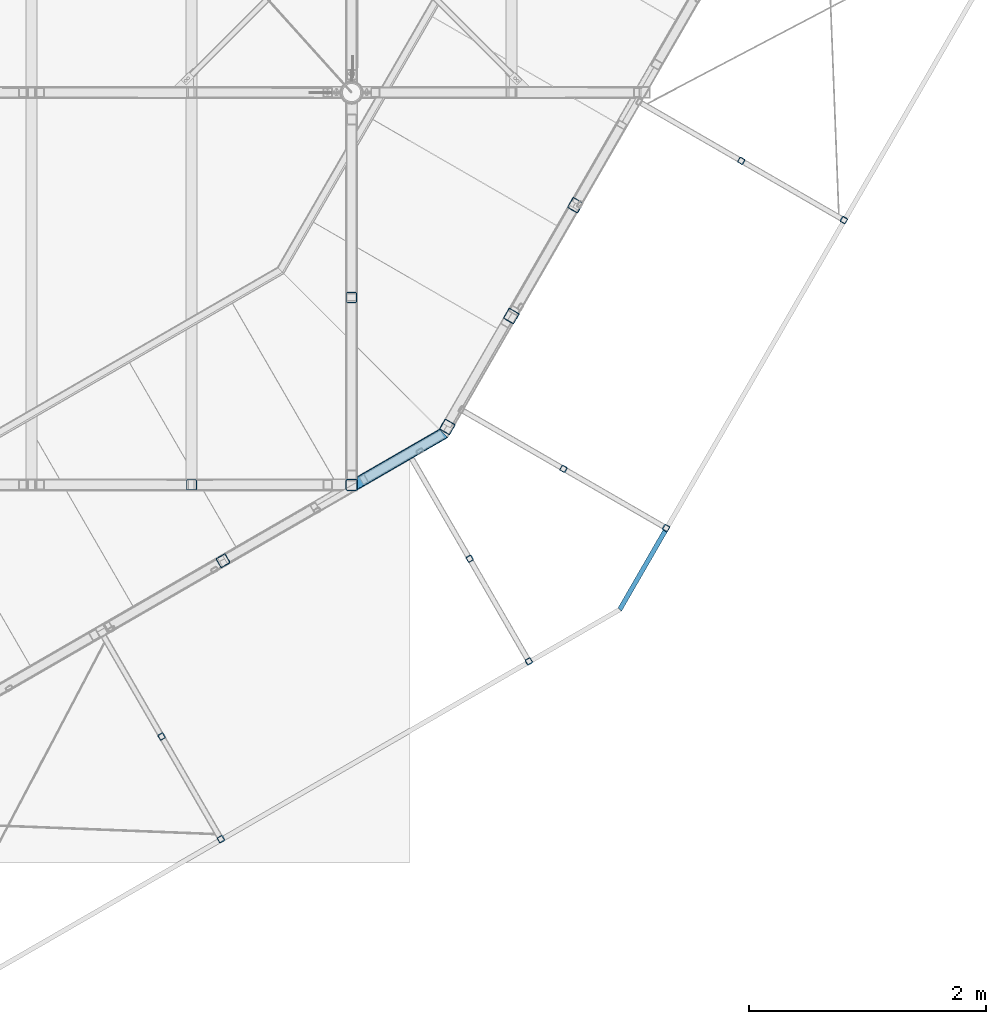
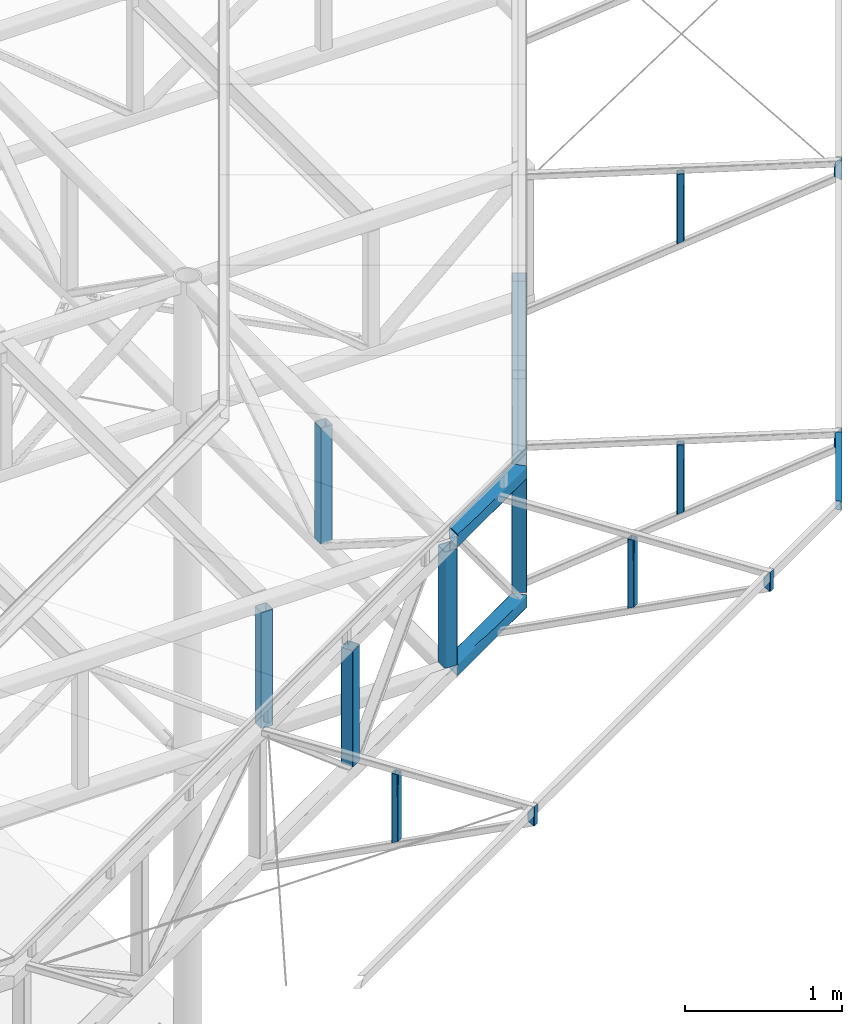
# One storey, part 79 of 132: 18 discrete accessories, 9 elements without a shape of their own.
"""IFC2X3 building model written with IfcOpenShell, lengths in millimetres."""

from ifc_helpers import new_model, si_unit, frame, origin_with_axes, origin_2d_with_axis, place, context, subcontext, project, spatial, hollow_rectangle, u_section, extrude, clip, halfspace, material, type_object, element, aggregate, save


model = new_model("IFC2X3")

# Units and contexts
model_context = context("Model", 3, precision=1e-05, world=origin_with_axes())
body_context = subcontext(model_context, "Body", "Model", "MODEL_VIEW")
ifc_project = project(units=[si_unit("LENGTHUNIT", "METRE", prefix="MILLI"), si_unit("AREAUNIT", "SQUARE_METRE"), si_unit("VOLUMEUNIT", "CUBIC_METRE"), si_unit("MASSUNIT", "GRAM", prefix="KILO"), si_unit("TIMEUNIT", "SECOND"), si_unit("PLANEANGLEUNIT", "RADIAN"), si_unit("SOLIDANGLEUNIT", "STERADIAN"), si_unit("THERMODYNAMICTEMPERATUREUNIT", "DEGREE_CELSIUS"), si_unit("LUMINOUSINTENSITYUNIT", "LUMEN")], contexts=[model_context])

# Site, building, storey
site_placement = place(None, origin_with_axes())
site = spatial("IfcSite", under=ifc_project, at=site_placement, Name="Budowa", CompositionType="ELEMENT")
building_placement = place(site_placement, origin_with_axes())
building = spatial("IfcBuilding", under=site, at=building_placement, Name="Undefined", CompositionType="ELEMENT")
storey_placement = place(building_placement, origin_with_axes())
storey = spatial("IfcBuildingStorey", under=building, at=storey_placement, Name="Undefined", CompositionType="ELEMENT", Elevation=0.0)

# Assembly, discrete accessory
assembly_1_placement = place(storey_placement, origin_with_axes())
assembly_1 = element("IfcElementAssembly", 1, at=assembly_1_placement, inside=storey, Name="Steel Assembly", AssemblyPlace="NOTDEFINED", PredefinedType="RIGID_FRAME")
ifc_material = material(Name="STEEL/S235")
discrete_accessory_type = type_object("IfcDiscreteAccessoryType", Name="BEAM")
discrete_accessory_1_placement = place(assembly_1_placement, frame((22395.4981797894, 1478.75715309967, 13945.0030433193), z_axis=(-4.93841132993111e-07, -8.55724813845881e-07, -0.999999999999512), x_axis=(0.499969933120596, 0.866042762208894, -9.88000000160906e-07)))
discrete_accessory_1 = element("IfcDiscreteAccessory", 2, at=discrete_accessory_1_placement, type_object=discrete_accessory_type, material=ifc_material, Name="BEAM", ObjectType="C70*40*4", context=body_context, shape_type="Clipping", body=[
    clip(extrude(u_section(Depth=70.0, FlangeWidth=40.0, WebThickness=4.0, FlangeThickness=4.0, FilletRadius=6.0, at=origin_2d_with_axis()), frame((950.000000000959, 1.82248795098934e-14, 0.0), z_axis=(-1.0, 0.0, 0.0), x_axis=(0.0, -1.0, 0.0)), (0.0, 0.0, 1.0), 804.12), halfspace(frame((188.937335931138, -20.000059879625, 3.42169423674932e-05), z_axis=(-0.965916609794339, -0.258853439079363, 4.43050502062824e-07), x_axis=(-1.71128704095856e-10, -1.71094966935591e-06, -0.999999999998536)), False)),
])
aggregate(assembly_1, [discrete_accessory_1])

# Assembly, discrete accessories
assembly_2_placement = place(storey_placement, origin_with_axes())
assembly_2 = element("IfcElementAssembly", 3, at=assembly_2_placement, inside=storey, Name="Steel Assembly", AssemblyPlace="NOTDEFINED", PredefinedType="RIGID_FRAME")
discrete_accessory_2_placement = place(assembly_2_placement, frame((23512.5560294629, 5423.71783379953, 13878.94002838), z_axis=(-0.499969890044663, -0.866042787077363, 0.0), x_axis=(0.0, 0.0, -1.0)))
discrete_accessory_2 = element("IfcDiscreteAccessory", 4, at=discrete_accessory_2_placement, type_object=discrete_accessory_type, material=ifc_material, Name="BEAM", ObjectType="SHS50*4", context=body_context, shape_type="Clipping", body=[
    clip(clip(extrude(hollow_rectangle(XDim=50.0, YDim=50.0, WallThickness=4.0, InnerFilletRadius=4.0, OuterFilletRadius=8.0, at=origin_2d_with_axis()), frame((545.085010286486, 0.0, 0.0), z_axis=(-1.0, 0.0, 0.0), x_axis=(0.0, -1.0, 0.0)), (0.0, 0.0, 1.0), 559.36), halfspace(frame((536.667324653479, -11.620388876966, 1000.0), z_axis=(-0.885407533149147, -0.464815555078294, 0.0), x_axis=(0.464815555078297, -0.885407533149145, 0.0)), True)), halfspace(frame((0.185048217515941, 1.24844042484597, 1000.0), z_axis=(0.998752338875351, 0.0499376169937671, 0.0), x_axis=(-0.0499376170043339, 0.998752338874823, 2.09020387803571e-11)), True)),
])
discrete_accessory_3_placement = place(assembly_2_placement, frame((24378.5988165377, 4923.7479437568, 13979.9998397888), z_axis=(-0.499969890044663, -0.866042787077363, 0.0), x_axis=(0.0, 0.0, -1.0)))
discrete_accessory_3 = element("IfcDiscreteAccessory", 5, at=discrete_accessory_3_placement, type_object=discrete_accessory_type, material=ifc_material, Name="BEAM", ObjectType="SHS50*4", context=body_context, shape_type="Clipping", body=[
    clip(clip(extrude(hollow_rectangle(XDim=50.0, YDim=50.0, WallThickness=4.0, InnerFilletRadius=4.0, OuterFilletRadius=8.0, at=origin_2d_with_axis()), frame((176.695154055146, 0.0, 0.0), z_axis=(-1.0, 0.0, 0.0), x_axis=(0.0, -1.0, 0.0)), (0.0, 0.0, 1.0), 192.23), halfspace(frame((149.999998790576, 25.0, 0.0), z_axis=(0.855808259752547, -0.517293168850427, 0.0), x_axis=(0.0, 0.0, -1.0)), False)), halfspace(frame((-0.00517939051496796, 25.0, 0.0), z_axis=(-0.689225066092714, -0.724547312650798, 2.88487317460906e-10), x_axis=(0.0, 0.0, 1.0)), False)),
])
aggregate(assembly_2, [discrete_accessory_2, discrete_accessory_3])

assembly_3_placement = place(storey_placement, origin_with_axes())
assembly_3 = element("IfcElementAssembly", 6, at=assembly_3_placement, inside=storey, Name="Steel Assembly", AssemblyPlace="NOTDEFINED", PredefinedType="RIGID_FRAME")
discrete_accessory_4_placement = place(assembly_3_placement, frame((22012.5957528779, 2825.61868852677, 13878.94002838), z_axis=(-0.499969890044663, -0.866042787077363, 0.0), x_axis=(0.0, 0.0, -1.0)))
discrete_accessory_4 = element("IfcDiscreteAccessory", 7, at=discrete_accessory_4_placement, type_object=discrete_accessory_type, material=ifc_material, Name="BEAM", ObjectType="SHS50*4", context=body_context, shape_type="Clipping", body=[
    clip(clip(extrude(hollow_rectangle(XDim=50.0, YDim=50.0, WallThickness=4.0, InnerFilletRadius=4.0, OuterFilletRadius=8.0, at=origin_2d_with_axis()), frame((545.085010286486, 0.0, 0.0), z_axis=(-1.0, 0.0, 0.0), x_axis=(0.0, -1.0, 0.0)), (0.0, 0.0, 1.0), 559.36), halfspace(frame((536.667324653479, -11.620388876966, 1000.0), z_axis=(-0.885407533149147, -0.464815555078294, 0.0), x_axis=(0.464815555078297, -0.885407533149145, 0.0)), True)), halfspace(frame((0.185048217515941, 1.24844042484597, 1000.0), z_axis=(0.998752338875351, 0.0499376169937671, 0.0), x_axis=(-0.0499376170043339, 0.998752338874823, 2.09020387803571e-11)), True)),
])
discrete_accessory_5_placement = place(assembly_3_placement, frame((22878.6385399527, 2325.64879848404, 13979.9998397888), z_axis=(-0.499969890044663, -0.866042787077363, 0.0), x_axis=(0.0, 0.0, -1.0)))
discrete_accessory_5 = element("IfcDiscreteAccessory", 8, at=discrete_accessory_5_placement, type_object=discrete_accessory_type, material=ifc_material, Name="BEAM", ObjectType="SHS50*4", context=body_context, shape_type="Clipping", body=[
    clip(clip(extrude(hollow_rectangle(XDim=50.0, YDim=50.0, WallThickness=4.0, InnerFilletRadius=4.0, OuterFilletRadius=8.0, at=origin_2d_with_axis()), frame((176.695154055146, 0.0, 0.0), z_axis=(-1.0, 0.0, 0.0), x_axis=(0.0, -1.0, 0.0)), (0.0, 0.0, 1.0), 192.23), halfspace(frame((149.999998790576, 25.0, 0.0), z_axis=(0.855808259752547, -0.517293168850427, 0.0), x_axis=(0.0, 0.0, -1.0)), False)), halfspace(frame((-0.00517939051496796, 25.0, 0.0), z_axis=(-0.689225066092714, -0.724547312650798, 2.88487317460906e-10), x_axis=(0.0, 0.0, 1.0)), False)),
])
aggregate(assembly_3, [discrete_accessory_4, discrete_accessory_5])

assembly_4_placement = place(storey_placement, origin_with_axes())
assembly_4 = element("IfcElementAssembly", 9, at=assembly_4_placement, inside=storey, Name="Steel Assembly", AssemblyPlace="NOTDEFINED", PredefinedType="RIGID_FRAME")
discrete_accessory_6_placement = place(assembly_4_placement, frame((21220.4479907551, 2066.84601771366, 13878.94002838), z_axis=(0.866042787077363, 0.499969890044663, 0.0), x_axis=(0.0, 0.0, -1.0)))
discrete_accessory_6 = element("IfcDiscreteAccessory", 10, at=discrete_accessory_6_placement, type_object=discrete_accessory_type, material=ifc_material, Name="BEAM", ObjectType="SHS50*4", context=body_context, shape_type="Clipping", body=[
    clip(clip(extrude(hollow_rectangle(XDim=50.0, YDim=50.0, WallThickness=4.0, InnerFilletRadius=4.0, OuterFilletRadius=8.0, at=origin_2d_with_axis()), frame((545.085010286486, 0.0, 0.0), z_axis=(-1.0, 0.0, 0.0), x_axis=(0.0, -1.0, 0.0)), (0.0, 0.0, 1.0), 559.36), halfspace(frame((536.667324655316, 11.6203888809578, 999.999999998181), z_axis=(-0.885407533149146, 0.464815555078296, 0.0), x_axis=(-0.464815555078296, -0.885407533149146, 0.0)), True)), halfspace(frame((0.185048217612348, -1.24844042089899, 999.999999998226), z_axis=(0.998752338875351, -0.0499376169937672, 0.0), x_axis=(0.0499376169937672, 0.998752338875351, 0.0)), True)),
])
discrete_accessory_7_placement = place(assembly_4_placement, frame((21720.4178808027, 1200.80323063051, 13979.9998397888), z_axis=(0.866042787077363, 0.499969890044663, 0.0), x_axis=(0.0, 0.0, -1.0)))
discrete_accessory_7 = element("IfcDiscreteAccessory", 11, at=discrete_accessory_7_placement, type_object=discrete_accessory_type, material=ifc_material, Name="BEAM", ObjectType="SHS50*4", context=body_context, shape_type="Clipping", body=[
    clip(clip(extrude(hollow_rectangle(XDim=50.0, YDim=50.0, WallThickness=4.0, InnerFilletRadius=4.0, OuterFilletRadius=8.0, at=origin_2d_with_axis()), frame((176.695154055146, 0.0, 0.0), z_axis=(-1.0, 0.0, 0.0), x_axis=(0.0, -1.0, 0.0)), (0.0, 0.0, 1.0), 192.23), halfspace(frame((149.999998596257, -25.0000000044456, 4.06544131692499e-09), z_axis=(0.855808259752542, 0.517293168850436, 0.0), x_axis=(0.0, 0.0, 1.0)), False)), halfspace(frame((-0.00517941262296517, -25.0000000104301, 1.04982973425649e-08), z_axis=(-0.689225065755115, 0.724547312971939, 0.0), x_axis=(0.0, 0.0, -1.0)), False)),
])
aggregate(assembly_4, [discrete_accessory_6, discrete_accessory_7])

assembly_5_placement = place(storey_placement, origin_with_axes())
assembly_5 = element("IfcElementAssembly", 12, at=assembly_5_placement, inside=storey, Name="Steel Assembly", AssemblyPlace="NOTDEFINED", PredefinedType="RIGID_FRAME")
discrete_accessory_8_placement = place(assembly_5_placement, frame((18622.3196295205, 566.9363475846, 13878.94002838), z_axis=(0.866042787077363, 0.499969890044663, 0.0), x_axis=(0.0, 0.0, -1.0)))
discrete_accessory_8 = element("IfcDiscreteAccessory", 13, at=discrete_accessory_8_placement, type_object=discrete_accessory_type, material=ifc_material, Name="BEAM", ObjectType="SHS50*4", context=body_context, shape_type="Clipping", body=[
    clip(clip(extrude(hollow_rectangle(XDim=50.0, YDim=50.0, WallThickness=4.0, InnerFilletRadius=4.0, OuterFilletRadius=8.0, at=origin_2d_with_axis()), frame((545.085010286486, 0.0, 0.0), z_axis=(-1.0, 0.0, 0.0), x_axis=(0.0, -1.0, 0.0)), (0.0, 0.0, 1.0), 559.36), halfspace(frame((536.667324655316, 11.6203888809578, 999.999999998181), z_axis=(-0.885407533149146, 0.464815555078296, 0.0), x_axis=(-0.464815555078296, -0.885407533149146, 0.0)), True)), halfspace(frame((0.185048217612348, -1.24844042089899, 999.999999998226), z_axis=(0.998752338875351, -0.0499376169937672, 0.0), x_axis=(0.0499376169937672, 0.998752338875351, 0.0)), True)),
])
discrete_accessory_9_placement = place(assembly_5_placement, frame((19122.2895195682, -299.10643949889, 13979.9998397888), z_axis=(0.866042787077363, 0.499969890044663, 0.0), x_axis=(0.0, 0.0, -1.0)))
discrete_accessory_9 = element("IfcDiscreteAccessory", 14, at=discrete_accessory_9_placement, type_object=discrete_accessory_type, material=ifc_material, Name="BEAM", ObjectType="SHS50*4", context=body_context, shape_type="Clipping", body=[
    clip(clip(extrude(hollow_rectangle(XDim=50.0, YDim=50.0, WallThickness=4.0, InnerFilletRadius=4.0, OuterFilletRadius=8.0, at=origin_2d_with_axis()), frame((176.695154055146, 0.0, 0.0), z_axis=(-1.0, 0.0, 0.0), x_axis=(0.0, -1.0, 0.0)), (0.0, 0.0, 1.0), 192.23), halfspace(frame((149.999998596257, -25.0000000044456, 4.06544131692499e-09), z_axis=(0.855808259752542, 0.517293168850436, 0.0), x_axis=(0.0, 0.0, 1.0)), False)), halfspace(frame((-0.00517941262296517, -25.0000000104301, 1.04982973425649e-08), z_axis=(-0.689225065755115, 0.724547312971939, 0.0), x_axis=(0.0, 0.0, -1.0)), False)),
])
aggregate(assembly_5, [discrete_accessory_8, discrete_accessory_9])

assembly_6_placement = place(storey_placement, origin_with_axes())
assembly_6 = element("IfcElementAssembly", 15, at=assembly_6_placement, inside=storey, Name="Steel Assembly", AssemblyPlace="NOTDEFINED", PredefinedType="RIGID_FRAME")
discrete_accessory_10_placement = place(assembly_6_placement, frame((22112.8166863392, 5049.60522629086, 12879.9999999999), z_axis=(0.0, 0.0, 1.0), x_axis=(0.866025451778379, -0.499999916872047, 0.0)))
discrete_accessory_10 = element("IfcDiscreteAccessory", 16, at=discrete_accessory_10_placement, type_object=discrete_accessory_type, material=ifc_material, Name="BEAM", ObjectType="SHS100*4", context=body_context, shape_type="Clipping", body=[
    clip(clip(extrude(hollow_rectangle(XDim=100.0, YDim=100.0, WallThickness=4.0, InnerFilletRadius=4.0, OuterFilletRadius=8.0, at=origin_2d_with_axis()), frame((0.0, 0.0, 900.0), z_axis=(0.0, 0.0, -1.0), x_axis=(0.0, 1.0, 0.0)), (0.0, 0.0, 1.0), 900.0), halfspace(frame((1000.0, 0.0, 900.0), z_axis=(0.0, 0.0, -1.0), x_axis=(0.0, 1.0, 0.0)), True)), halfspace(frame((1000.0, 0.0, 0.0), z_axis=(0.0, 0.0, 1.0), x_axis=(0.0, -1.0, 0.0)), True)),
])
discrete_accessory_11_placement = place(assembly_6_placement, frame((21572.8166315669, 4114.29782182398, 12879.9999999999), z_axis=(0.0, 0.0, 1.0), x_axis=(0.866025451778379, -0.499999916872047, 0.0)))
discrete_accessory_11 = element("IfcDiscreteAccessory", 17, at=discrete_accessory_11_placement, type_object=discrete_accessory_type, material=ifc_material, Name="BEAM", ObjectType="SHS100*4", context=body_context, shape_type="Clipping", body=[
    clip(clip(extrude(hollow_rectangle(XDim=100.0, YDim=100.0, WallThickness=4.0, InnerFilletRadius=4.0, OuterFilletRadius=8.0, at=origin_2d_with_axis()), frame((0.0, 0.0, 900.0), z_axis=(0.0, 0.0, -1.0), x_axis=(0.0, 1.0, 0.0)), (0.0, 0.0, 1.0), 900.0), halfspace(frame((1000.0, 0.0, 900.0), z_axis=(0.0, 0.0, -1.0), x_axis=(0.0, 1.0, 0.0)), True)), halfspace(frame((1000.0, 0.0, 0.0), z_axis=(0.0, 0.0, 1.0), x_axis=(0.0, -1.0, 0.0)), True)),
])
discrete_accessory_12_placement = place(assembly_6_placement, frame((21032.8165767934, 3178.99041735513, 12879.9999999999), z_axis=(0.0, 0.0, 1.0), x_axis=(0.866025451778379, -0.499999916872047, 0.0)))
discrete_accessory_12 = element("IfcDiscreteAccessory", 18, at=discrete_accessory_12_placement, type_object=discrete_accessory_type, material=ifc_material, Name="BEAM", ObjectType="SHS100*4", context=body_context, shape_type="Clipping", body=[
    clip(clip(extrude(hollow_rectangle(XDim=100.0, YDim=100.0, WallThickness=4.0, InnerFilletRadius=4.0, OuterFilletRadius=8.0, at=origin_2d_with_axis()), frame((0.0, 0.0, 900.0), z_axis=(0.0, 0.0, -1.0), x_axis=(0.0, 1.0, 0.0)), (0.0, 0.0, 1.0), 900.0), halfspace(frame((1000.0, 0.0, 900.0), z_axis=(0.0, 0.0, -1.0), x_axis=(0.0, 1.0, 0.0)), True)), halfspace(frame((1000.0, 0.0, 0.0), z_axis=(0.0, 0.0, 1.0), x_axis=(0.0, -1.0, 0.0)), True)),
])
discrete_accessory_13_placement = place(assembly_6_placement, frame((20246.9871952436, 2688.72349715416, 12830.0), z_axis=(0.0, 0.0, 1.0), x_axis=(0.866042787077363, 0.499969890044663, 0.0)))
discrete_accessory_13 = element("IfcDiscreteAccessory", 19, at=discrete_accessory_13_placement, type_object=discrete_accessory_type, material=ifc_material, Name="BEAM", ObjectType="SHS100*5", context=body_context, shape_type="Clipping", body=[
    clip(clip(extrude(hollow_rectangle(XDim=100.0, YDim=100.0, WallThickness=5.0, InnerFilletRadius=5.0, OuterFilletRadius=10.0, at=origin_2d_with_axis()), frame((950.430426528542, 0.0, 0.0), z_axis=(-1.0, 0.0, 0.0), x_axis=(0.0, -1.0, 0.0)), (0.0, 0.0, 1.0), 950.43), halfspace(frame((3.48055581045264, -49.9999999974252, -50.0), z_axis=(-0.866042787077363, 0.499969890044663, 0.0), x_axis=(0.499969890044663, 0.866042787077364, 0.0)), False)), halfspace(frame((884.175439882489, -50.0000000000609, 0.0), z_axis=(0.965921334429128, 0.258835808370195, 0.0), x_axis=(0.0, 0.0, 1.0)), False)),
])
discrete_accessory_14_placement = place(assembly_6_placement, frame((20246.9871952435, 2688.72349715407, 13830.0), z_axis=(0.0, 0.0, 1.0), x_axis=(0.866042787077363, 0.499969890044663, 0.0)))
discrete_accessory_14 = element("IfcDiscreteAccessory", 20, at=discrete_accessory_14_placement, type_object=discrete_accessory_type, material=ifc_material, Name="BEAM", ObjectType="SHS100*5", context=body_context, shape_type="Clipping", body=[
    clip(clip(extrude(hollow_rectangle(XDim=100.0, YDim=100.0, WallThickness=5.0, InnerFilletRadius=5.0, OuterFilletRadius=10.0, at=origin_2d_with_axis()), frame((950.430426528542, 0.0, 0.0), z_axis=(-1.0, 0.0, 0.0), x_axis=(0.0, -1.0, 0.0)), (0.0, 0.0, 1.0), 950.43), halfspace(frame((3.48055581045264, -49.9999999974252, -50.0), z_axis=(-0.866042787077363, 0.499969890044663, 0.0), x_axis=(0.499969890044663, 0.866042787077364, 0.0)), False)), halfspace(frame((884.175439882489, -50.0000000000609, 0.0), z_axis=(0.965921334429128, 0.258835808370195, 0.0), x_axis=(0.0, 0.0, 1.0)), False)),
])
aggregate(assembly_6, [discrete_accessory_10, discrete_accessory_11, discrete_accessory_12, discrete_accessory_13, discrete_accessory_14])

# Assembly, discrete accessory
assembly_7_placement = place(storey_placement, origin_with_axes())
assembly_7 = element("IfcElementAssembly", 21, at=assembly_7_placement, inside=storey, Name="Steel Assembly", AssemblyPlace="NOTDEFINED", PredefinedType="RIGID_FRAME")
discrete_accessory_15_placement = place(assembly_7_placement, frame((19140.3912211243, 2049.68130816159, 12880.0), z_axis=(0.0, 0.0, 1.0), x_axis=(0.499969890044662, -0.866042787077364, 0.0)))
discrete_accessory_15 = element("IfcDiscreteAccessory", 22, at=discrete_accessory_15_placement, type_object=discrete_accessory_type, material=ifc_material, Name="BEAM", ObjectType="SHS90*4", context=body_context, shape_type="Clipping", body=[
    clip(clip(extrude(hollow_rectangle(XDim=90.0, YDim=90.0, WallThickness=4.0, InnerFilletRadius=4.0, OuterFilletRadius=8.0, at=origin_2d_with_axis()), frame((0.0, 0.0, 900.0), z_axis=(0.0, 0.0, -1.0), x_axis=(0.0, 1.0, 0.0)), (0.0, 0.0, 1.0), 900.0), halfspace(frame((1000.0, 0.0, 900.0), z_axis=(0.0, 0.0, -1.0), x_axis=(0.0, 1.0, 0.0)), True)), halfspace(frame((1000.0, 0.0, 0.0), z_axis=(0.0, 0.0, 1.0), x_axis=(0.0, -1.0, 0.0)), True)),
])
aggregate(assembly_7, [discrete_accessory_15])

assembly_8_placement = place(storey_placement, origin_with_axes())
assembly_8 = element("IfcElementAssembly", 23, at=assembly_8_placement, inside=storey, Name="Steel Assembly", AssemblyPlace="NOTDEFINED", PredefinedType="RIGID_FRAME")
discrete_accessory_16_placement = place(assembly_8_placement, frame((18874.9999999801, 2690.00000004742, 13780.0), z_axis=(0.0, -1.0, 0.0), x_axis=(0.0, 0.0, -1.0)))
discrete_accessory_16 = element("IfcDiscreteAccessory", 24, at=discrete_accessory_16_placement, type_object=discrete_accessory_type, material=ifc_material, Name="BEAM", ObjectType="SHS90*6", context=body_context, shape_type="Clipping", body=[
    clip(clip(extrude(hollow_rectangle(XDim=90.0, YDim=90.0, WallThickness=6.0, InnerFilletRadius=6.0, OuterFilletRadius=12.0, at=origin_2d_with_axis()), frame((900.0, 0.0, 0.0), z_axis=(-1.0, 0.0, 0.0), x_axis=(0.0, -1.0, 0.0)), (0.0, 0.0, 1.0), 900.0), halfspace(frame((900.0, 0.0, 1000.0), z_axis=(-1.0, 0.0, 0.0), x_axis=(0.0, -1.0, 0.0)), True)), halfspace(frame((0.0, 0.0, 1000.0), z_axis=(1.0, 0.0, 0.0), x_axis=(0.0, 1.0, 0.0)), True)),
])
aggregate(assembly_8, [discrete_accessory_16])

# Assembly, discrete accessories
assembly_9_placement = place(storey_placement, origin_with_axes())
assembly_9 = element("IfcElementAssembly", 25, at=assembly_9_placement, inside=storey, Name="Steel Assembly", AssemblyPlace="NOTDEFINED", PredefinedType="RIGID_FRAME")
discrete_accessory_17_placement = place(assembly_9_placement, frame((20225.0000000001, 4271.10000004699, 13780.0000000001), z_axis=(1.0, 0.0, 0.0), x_axis=(0.0, 0.0, -1.0)))
discrete_accessory_17 = element("IfcDiscreteAccessory", 26, at=discrete_accessory_17_placement, type_object=discrete_accessory_type, material=ifc_material, Name="BEAM", ObjectType="SHS90*6", context=body_context, shape_type="Clipping", body=[
    clip(clip(extrude(hollow_rectangle(XDim=90.0, YDim=90.0, WallThickness=6.0, InnerFilletRadius=6.0, OuterFilletRadius=12.0, at=origin_2d_with_axis()), frame((900.0, 0.0, 0.0), z_axis=(-1.0, 0.0, 0.0), x_axis=(0.0, -1.0, 0.0)), (0.0, 0.0, 1.0), 900.0), halfspace(frame((900.0, 0.0, 1000.0), z_axis=(-1.0, 0.0, 0.0), x_axis=(0.0, -1.0, 0.0)), True)), halfspace(frame((0.0, 0.0, 1000.0), z_axis=(1.0, 0.0, 0.0), x_axis=(0.0, 1.0, 0.0)), True)),
])
discrete_accessory_18_placement = place(assembly_9_placement, frame((20225.0000000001, 2690.00000004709, 13780.0000000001), z_axis=(1.0, 0.0, 0.0), x_axis=(0.0, 0.0, -1.0)))
discrete_accessory_18 = element("IfcDiscreteAccessory", 27, at=discrete_accessory_18_placement, type_object=discrete_accessory_type, material=ifc_material, Name="BEAM", ObjectType="SHS100*8", context=body_context, shape_type="Clipping", body=[
    clip(clip(extrude(hollow_rectangle(XDim=100.0, YDim=100.0, WallThickness=8.0, InnerFilletRadius=8.0, OuterFilletRadius=16.0, at=origin_2d_with_axis()), frame((900.0, 0.0, 0.0), z_axis=(-1.0, 0.0, 0.0), x_axis=(0.0, -1.0, 0.0)), (0.0, 0.0, 1.0), 900.0), halfspace(frame((900.0, 0.0, 1000.0), z_axis=(-1.0, 0.0, 0.0), x_axis=(0.0, -1.0, 0.0)), True)), halfspace(frame((0.0, 0.0, 1000.0), z_axis=(1.0, 0.0, 0.0), x_axis=(0.0, 1.0, 0.0)), True)),
])
aggregate(assembly_9, [discrete_accessory_17, discrete_accessory_18])

save(model, "model.ifc")
